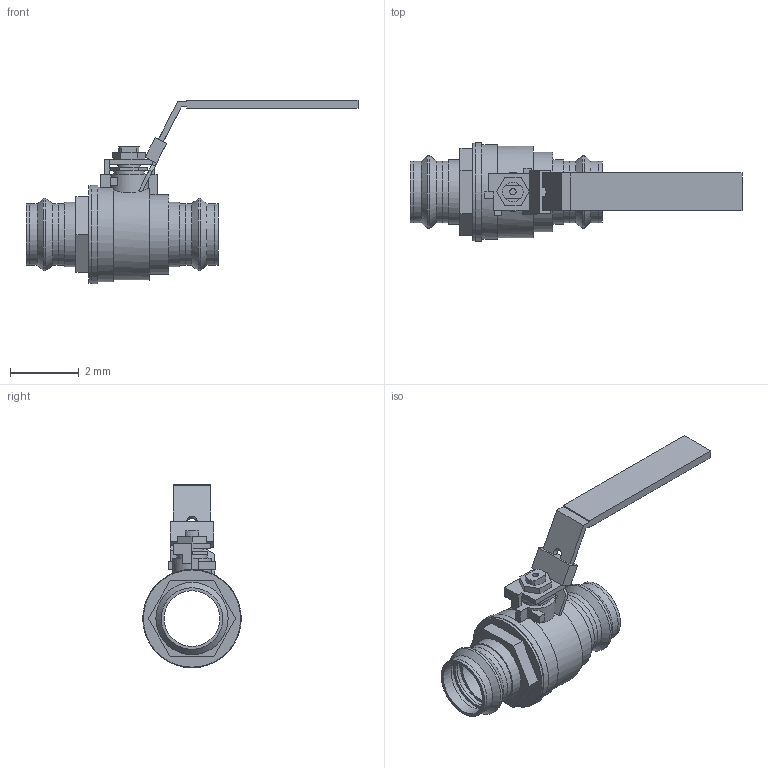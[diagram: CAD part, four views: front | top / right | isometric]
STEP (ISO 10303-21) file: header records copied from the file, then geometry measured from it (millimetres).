
FILE_DESCRIPTION(('Open CASCADE Model'),'2;1');
FILE_NAME('Open CASCADE Shape Model','2022-07-29T14:44:29',('Author'),( 'Open CASCADE'),'Open CASCADE STEP processor 7.3','Open CASCADE 7.3' ,'Unknown');
FILE_SCHEMA(('AUTOMOTIVE_DESIGN { 1 0 10303 214 1 1 1 1 }'));
Length unit declared in the file: millimetre
Products named in the file (14): Open CASCADE STEP translator 7.3 1; Open CASCADE STEP translator 7.3 1.1; Open CASCADE STEP translator 7.3 1.1.1; Open CASCADE STEP translator 7.3 1.1.2; Open CASCADE STEP translator 7.3 1.1.3; Open CASCADE STEP translator 7.3 1.1.4; Open CASCADE STEP translator 7.3 1.1.5; Open CASCADE STEP translator 7.3 1.1.6; Open CASCADE STEP translator 7.3 1.1.7; Open CASCADE STEP translator 7.3 1.1.8; Open CASCADE STEP translator 7.3 1.1.9; Open CASCADE STEP translator 7.3 1.1.10; Open CASCADE STEP translator 7.3 1.1.11; Open CASCADE STEP translator 7.3 1.2
Assembly tree (13 placements, depth 3):
  Open CASCADE STEP translator 7.3 1
    Open CASCADE STEP translator 7.3 1.1
      Open CASCADE STEP translator 7.3 1.1.1
      Open CASCADE STEP translator 7.3 1.1.2
      Open CASCADE STEP translator 7.3 1.1.3
      Open CASCADE STEP translator 7.3 1.1.4
      Open CASCADE STEP translator 7.3 1.1.5
      Open CASCADE STEP translator 7.3 1.1.6
      Open CASCADE STEP translator 7.3 1.1.7
      Open CASCADE STEP translator 7.3 1.1.8
      Open CASCADE STEP translator 7.3 1.1.9
      Open CASCADE STEP translator 7.3 1.1.10
      Open CASCADE STEP translator 7.3 1.1.11
    Open CASCADE STEP translator 7.3 1.2
Bounding box: 9.69 x 2.88 x 5.36 mm (x, y, z)
Volume: 12.9 mm3; surface area: 120 mm2
Topology: 4 solids, 12 shells, 157 faces, 392 edges, 262 vertices
Faces by surface type: plane 113, cylinder 36, cone 8
Full cylindrical faces by diameter (mm): 0.184 x1, 0.654 x1, 0.88 x1, 1.625 x5, 1.797 x2, 1.798 x4, 1.802 x2, 1.804 x4, 1.878 x1, 1.887 x1, 2.11 x2, 2.323 x1, 2.764 x1, 2.838 x1, 2.878 x1
Entity records: 10322 total; most frequent: CARTESIAN_POINT 2226, DIRECTION 1511, LINE 922, VECTOR 922, ORIENTED_EDGE 760, PCURVE 760, DEFINITIONAL_REPRESENTATION 760, EDGE_CURVE 392
